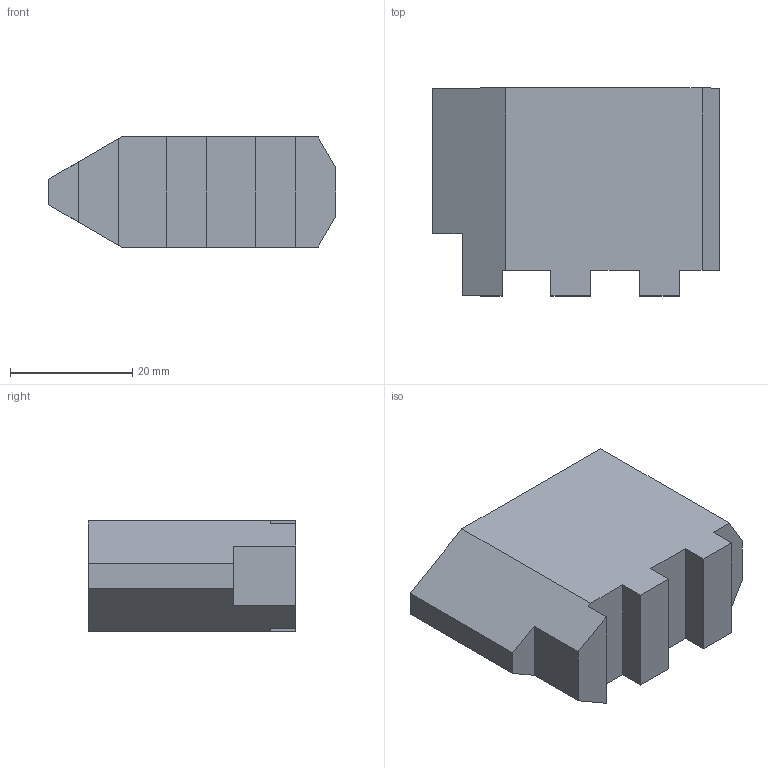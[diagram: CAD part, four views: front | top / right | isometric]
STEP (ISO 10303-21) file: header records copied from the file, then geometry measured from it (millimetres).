
FILE_DESCRIPTION (( 'STEP AP214' ), '1' );
FILE_NAME ('59616-63.STEP', '2022-04-21T11:17:48', ( '' ), ( '' ), 'SwSTEP 2.0', 'SolidWorks 2021', '' );
FILE_SCHEMA (( 'AUTOMOTIVE_DESIGN' ));
Length unit declared in the file: millimetre
Products named in the file (1): 59616-63
Bounding box: 47 x 34 x 18 mm (x, y, z)
Volume: 23451 mm3; surface area: 5497.2 mm2
Topology: 1 solids, 1 shells, 22 faces, 60 edges, 40 vertices
Faces by surface type: plane 22
Entity records: 718 total; most frequent: CARTESIAN_POINT 123, ORIENTED_EDGE 120, DIRECTION 106, EDGE_CURVE 60, VECTOR 60, LINE 60, VERTEX_POINT 40, AXIS2_PLACEMENT_3D 23
